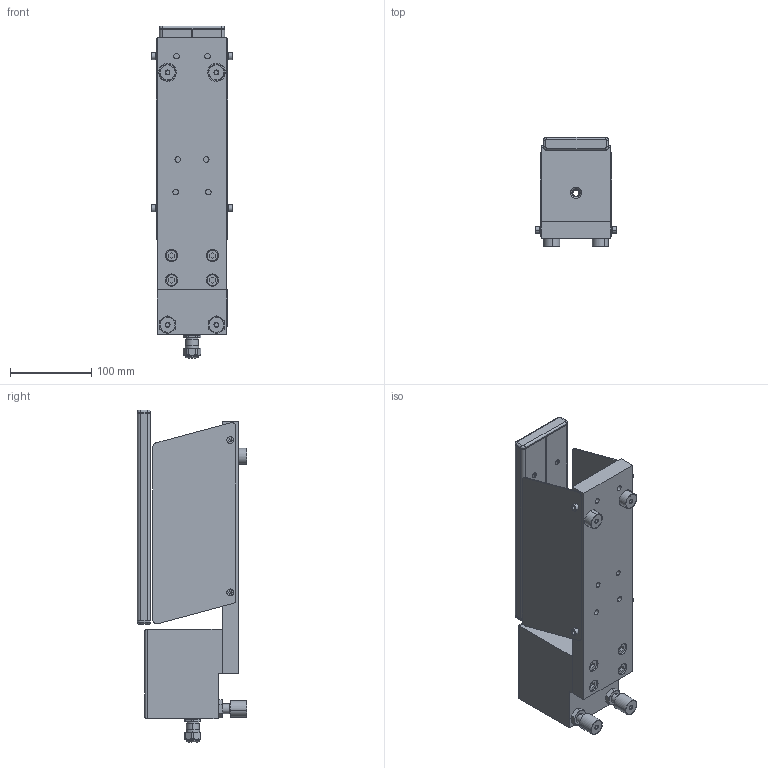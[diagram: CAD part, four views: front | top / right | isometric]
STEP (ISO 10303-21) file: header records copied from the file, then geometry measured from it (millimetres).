
FILE_DESCRIPTION (( 'STEP AP203' ), '1' );
FILE_NAME ('SAL 680.STEP', '2015-10-12T09:23:57', ( '' ), ( '' ), 'SwSTEP 2.0', 'SolidWorks 2014', '' );
FILE_SCHEMA (( 'CONFIG_CONTROL_DESIGN' ));
Length unit declared in the file: millimetre
Products named in the file (1): SAL 680
Bounding box: 100 x 134.01 x 407.7 mm (x, y, z)
Surface area: 306051.9 mm2 (no closed solid volume)
Topology: 0 solids, 85 shells, 463 faces, 1481 edges, 1110 vertices
Faces by surface type: cylinder 212, plane 195, cone 24, bspline 24, torus 8
Entity records: 18415 total; most frequent: CARTESIAN_POINT 5439, DIRECTION 2768, ORIENTED_EDGE 2300, EDGE_CURVE 1473, VERTEX_POINT 1110, AXIS2_PLACEMENT_3D 1031, VECTOR 706, LINE 706
